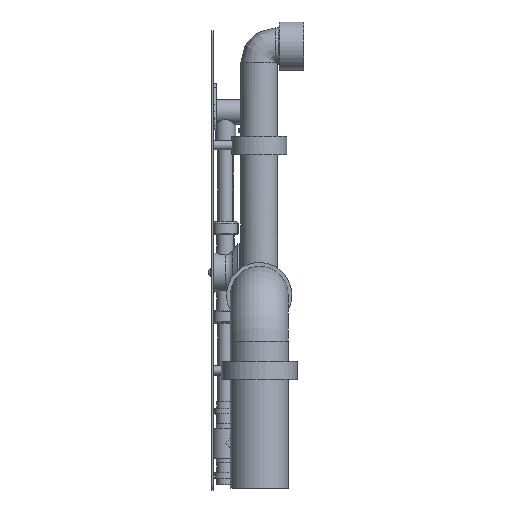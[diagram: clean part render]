
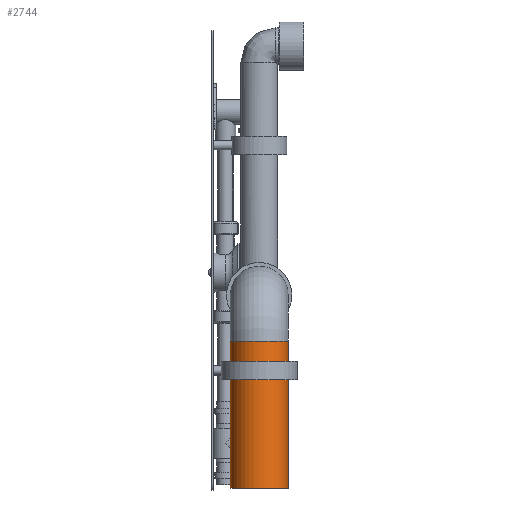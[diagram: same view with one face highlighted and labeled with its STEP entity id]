
A CAD part, left-side view. The second image highlights one B-rep face of the part: STEP entity #2744.
In plain terms, the highlighted cylindrical face has radius 31.5 mm (diameter 63 mm), a full revolution.
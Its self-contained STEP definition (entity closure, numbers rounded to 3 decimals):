
#2744=ADVANCED_FACE('',(#4637,#4638),#4639,.T.);
#4637=FACE_BOUND('',#7455,.T.);
#4638=FACE_BOUND('',#7456,.T.);
#4639=CYLINDRICAL_SURFACE('',#7457,31.5);
#7455=EDGE_LOOP('',(#9163));
#7456=EDGE_LOOP('',(#9164));
#7457=AXIS2_PLACEMENT_3D('',#9165,#9166,#9167);
#9163=ORIENTED_EDGE('',*,*,#12828,.F.);
#9164=ORIENTED_EDGE('',*,*,#12829,.T.);
#9165=CARTESIAN_POINT('',(-136.765,-50.0,190.0));
#9166=DIRECTION('',(0.,0.,1.0));
#9167=DIRECTION('',(0.,1.0,0.));
#12828=EDGE_CURVE('',#15876,#15876,#15877,.T.);
#12829=EDGE_CURVE('',#15878,#15878,#15879,.T.);
#15876=VERTEX_POINT('',#18130);
#15877=CIRCLE('',#18131,31.5);
#15878=VERTEX_POINT('',#18132);
#15879=CIRCLE('',#18133,31.5);
#18130=CARTESIAN_POINT('',(-105.265,-50.0,350.));
#18131=AXIS2_PLACEMENT_3D('',#20625,#20626,#20627);
#18132=CARTESIAN_POINT('',(-136.765,-18.5,190.0));
#18133=AXIS2_PLACEMENT_3D('',#20628,#20629,#20630);
#20625=CARTESIAN_POINT('',(-136.765,-50.0,350.));
#20626=DIRECTION('',(0.0,0.0,1.0));
#20627=DIRECTION('',(-1.0,0.0,0.0));
#20628=CARTESIAN_POINT('',(-136.765,-50.0,190.0));
#20629=DIRECTION('',(0.,0.,1.0));
#20630=DIRECTION('',(0.,1.0,0.));
